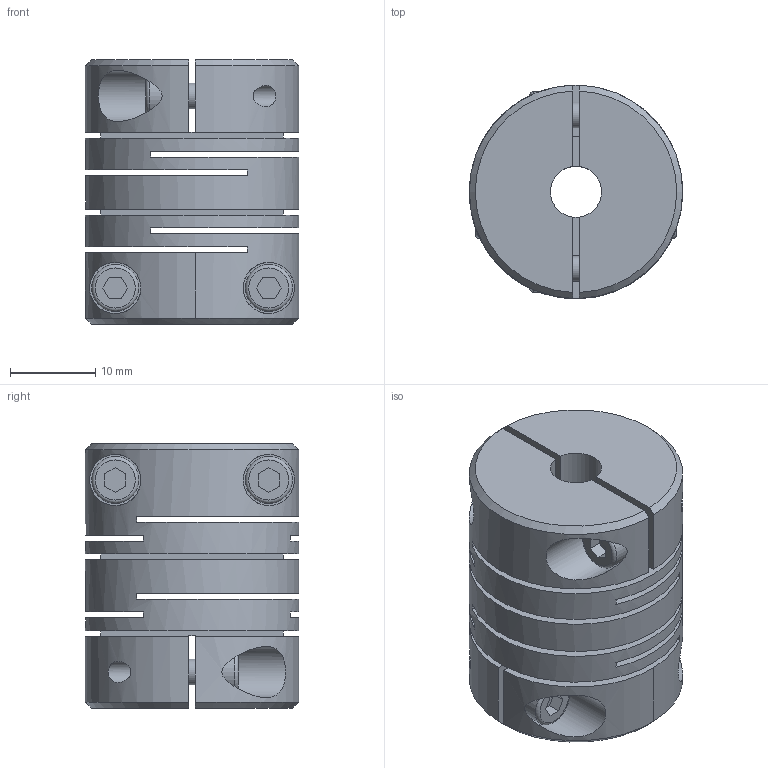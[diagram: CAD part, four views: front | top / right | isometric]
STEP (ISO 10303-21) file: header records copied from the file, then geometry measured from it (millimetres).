
FILE_DESCRIPTION (( 'STEP AP214' ), '1' );
FILE_NAME ('2246-25-B6-1_4-NI.step', '2022-05-27T09:31:02', ( '' ), ( '' ), 'SwSTEP 2.0', 'SolidWorks 2019', '' );
FILE_SCHEMA (( 'AUTOMOTIVE_DESIGN' ));
Length unit declared in the file: millimetre
Products named in the file (1): 2246-25-B6-1_4-NI
Bounding box: 25 x 24.99 x 31 mm (x, y, z)
Volume: 11911 mm3; surface area: 9640.6 mm2
Topology: 1 solids, 1 shells, 123 faces, 308 edges, 208 vertices
Faces by surface type: plane 79, cylinder 32, cone 8, torus 4
Full cylindrical faces by diameter (mm): 2.5 x4, 3 x4, 3.3 x4, 5.5 x4, 6 x7, 6.35 x3, 25 x1
Entity records: 4300 total; most frequent: CARTESIAN_POINT 975, DIRECTION 552, ORIENTED_EDGE 476, EDGE_CURVE 238, AXIS2_PLACEMENT_3D 207, EDGE_LOOP 200, VERTEX_POINT 178, FACE_OUTER_BOUND 153
